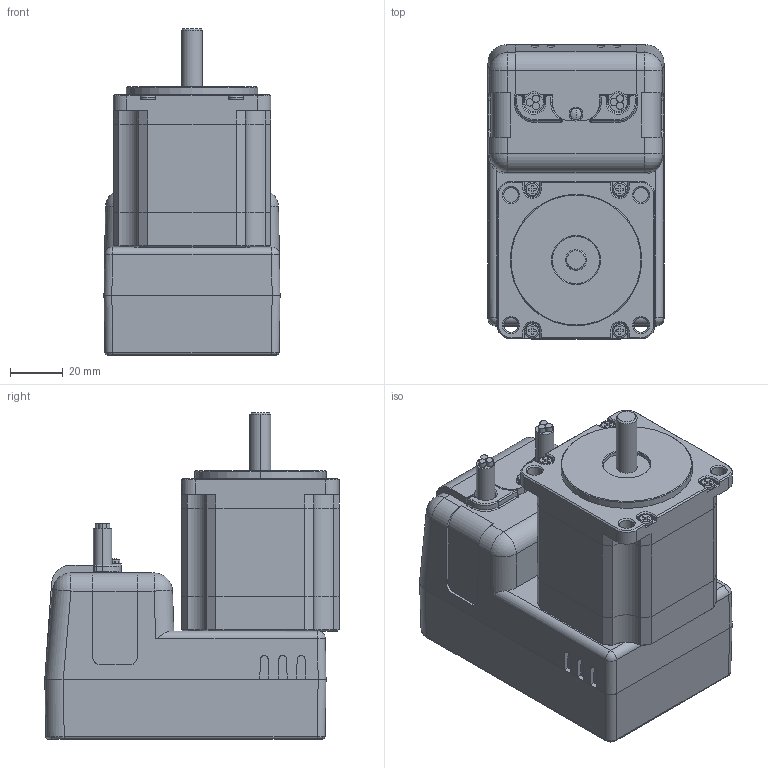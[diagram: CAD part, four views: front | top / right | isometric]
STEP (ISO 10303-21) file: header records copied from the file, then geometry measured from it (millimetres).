
FILE_DESCRIPTION (( 'STEP AP214' ), '1' );
FILE_NAME ('CM2-C-60A20C.STEP', '2017-04-07T20:26:00', ( '' ), ( '' ), 'SwSTEP 2.0', 'SolidWorks 2015', '' );
FILE_SCHEMA (( 'AUTOMOTIVE_DESIGN' ));
Length unit declared in the file: millimetre
Products named in the file (1): CM2-C-60A20C
Bounding box: 67 x 112 x 124.1 mm (x, y, z)
Volume: 553725.5 mm3; surface area: 87279 mm2
Topology: 19 solids, 19 shells, 534 faces, 1310 edges, 818 vertices
Faces by surface type: plane 236, cylinder 214, torus 35, cone 26, sphere 15, bspline 8
Entity records: 21862 total; most frequent: CARTESIAN_POINT 3086, DIRECTION 2721, ORIENTED_EDGE 2608, EDGE_CURVE 1304, AXIS2_PLACEMENT_3D 975, VERTEX_POINT 818, VECTOR 771, LINE 771
